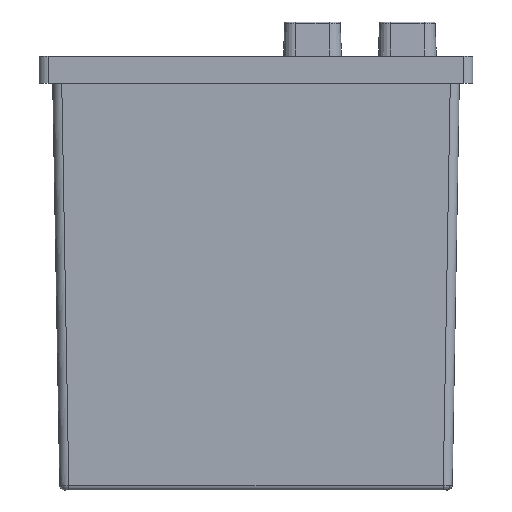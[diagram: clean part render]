
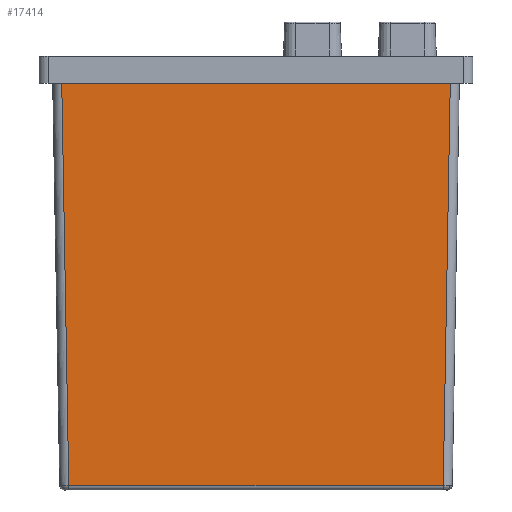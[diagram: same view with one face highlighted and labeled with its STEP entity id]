
A CAD part, front view. The second image highlights one B-rep face of the part: STEP entity #17414.
In plain terms, the highlighted planar face has unit normal (0, -1, -0.018) as drawn and (0.017, -1, 0) by its records, which use the part's own axes.
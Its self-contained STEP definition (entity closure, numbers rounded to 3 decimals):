
#196 = DIRECTION ( 'NONE',  ( -1., -0.017, 0. ) ) ;
#231 = CARTESIAN_POINT ( 'NONE',  ( 0., 0., 45. ) ) ;
#1294 = LINE ( 'NONE', #231, #5413 ) ;
#1527 = ORIENTED_EDGE ( 'NONE', *, *, #20776, .T. ) ;
#1662 = EDGE_CURVE ( 'NONE', #20766, #18548, #1294, .T. ) ;
#1972 = CARTESIAN_POINT ( 'NONE',  ( 44.509, 0.777, 43.223 ) ) ;
#2022 = CARTESIAN_POINT ( 'NONE',  ( 45., 0.785, 45. ) ) ;
#2157 = VERTEX_POINT ( 'NONE', #9869 ) ;
#2231 = DIRECTION ( 'NONE',  ( 1., 0.017, 0.017 ) ) ;
#2540 = EDGE_CURVE ( 'NONE', #11133, #20766, #15293, .T. ) ;
#3848 = LINE ( 'NONE', #5422, #12699 ) ;
#4133 = ORIENTED_EDGE ( 'NONE', *, *, #20943, .T. ) ;
#5413 = VECTOR ( 'NONE', #8295, 1000. ) ;
#5422 = CARTESIAN_POINT ( 'NONE',  ( 44.983, 0.785, 1.785 ) ) ;
#7003 = DIRECTION ( 'NONE',  ( -0.017, 1., 0. ) ) ;
#8295 = DIRECTION ( 'NONE',  ( 0., 0., -1. ) ) ;
#9157 = EDGE_LOOP ( 'NONE', ( #1527, #4133, #13641, #14187 ) ) ;
#9869 = CARTESIAN_POINT ( 'NONE',  ( 44.509, 0.777, 1.777 ) ) ;
#9999 = CARTESIAN_POINT ( 'NONE',  ( 0., 0., 44. ) ) ;
#10091 = PLANE ( 'NONE',  #12917 ) ;
#11133 = VERTEX_POINT ( 'NONE', #1972 ) ;
#12699 = VECTOR ( 'NONE', #2231, 1000. ) ;
#12917 = AXIS2_PLACEMENT_3D ( 'NONE', #2022, #7003, #196 ) ;
#13641 = ORIENTED_EDGE ( 'NONE', *, *, #2540, .T. ) ;
#13895 = CARTESIAN_POINT ( 'NONE',  ( -0.017, 0., 44. ) ) ;
#14132 = LINE ( 'NONE', #18846, #16840 ) ;
#14187 = ORIENTED_EDGE ( 'NONE', *, *, #1662, .T. ) ;
#15293 = LINE ( 'NONE', #13895, #16151 ) ;
#15986 = FACE_OUTER_BOUND ( 'NONE', #9157, .T. ) ;
#16151 = VECTOR ( 'NONE', #18713, 1000. ) ;
#16840 = VECTOR ( 'NONE', #17373, 1000. ) ;
#17373 = DIRECTION ( 'NONE',  ( 0., 0., 1. ) ) ;
#17414 = ADVANCED_FACE ( 'NONE', ( #15986 ), #10091, .F. ) ;
#18548 = VERTEX_POINT ( 'NONE', #19613 ) ;
#18713 = DIRECTION ( 'NONE',  ( -1., -0.017, 0.017 ) ) ;
#18846 = CARTESIAN_POINT ( 'NONE',  ( 44.509, 0.777, 45. ) ) ;
#19613 = CARTESIAN_POINT ( 'NONE',  ( 0., 0., 1. ) ) ;
#20766 = VERTEX_POINT ( 'NONE', #9999 ) ;
#20776 = EDGE_CURVE ( 'NONE', #18548, #2157, #3848, .T. ) ;
#20943 = EDGE_CURVE ( 'NONE', #2157, #11133, #14132, .T. ) ;
